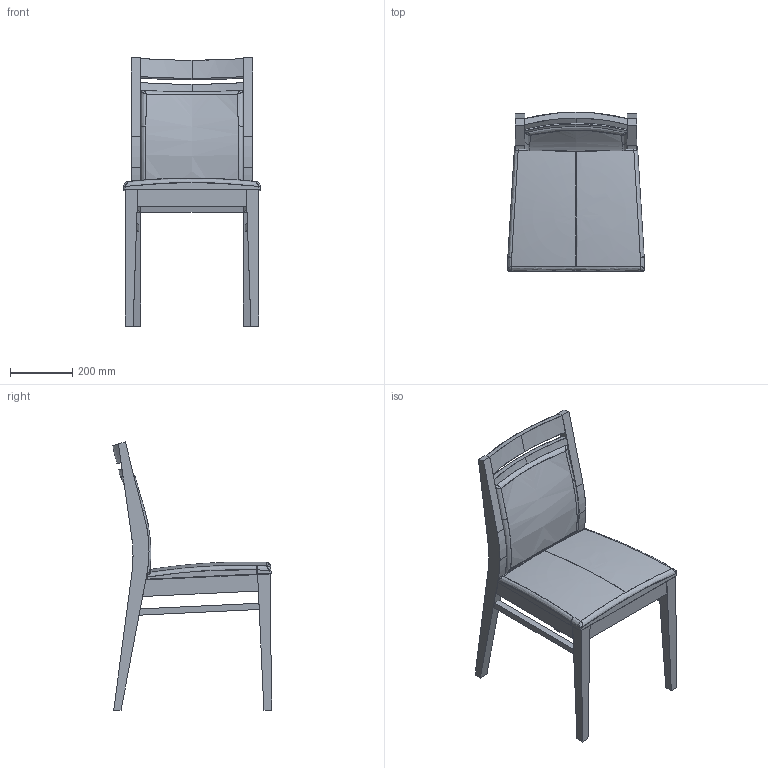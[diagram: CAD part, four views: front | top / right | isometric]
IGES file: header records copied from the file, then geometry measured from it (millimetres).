
Start section: SolidWorks IGES file using analytic representation for surfaces
Global section: file name: C:\Users\Adao\Documents\Trab Adao\Desenho técnico PRODUÇÃO\J M S\MARTY\MARTY (3D)\Cadeira MARTY M-435.IGS; native system: SolidWorks 2012; preprocessor: SolidWorks 2012; author: Adao; date: 121219.153842; units: millimetre
Bounding box: 439 x 512.91 x 863 mm (x, y, z)
Surface area: 1391264.3 mm2 (no closed solid volume)
Topology: 0 solids, 0 shells, 166 faces, 1468 edges, 1464 vertices
Faces by surface type: bspline 138, revolution 28
